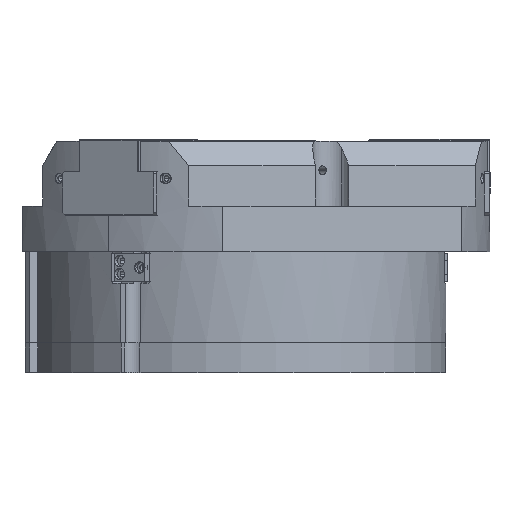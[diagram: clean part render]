
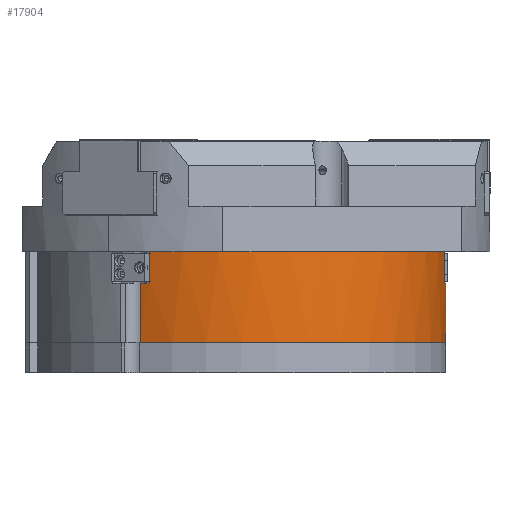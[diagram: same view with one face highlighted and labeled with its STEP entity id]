
A CAD part, front view. The second image highlights one B-rep face of the part: STEP entity #17904.
In plain terms, the highlighted cylindrical face has radius 120 mm (diameter 240 mm), a partial arc.
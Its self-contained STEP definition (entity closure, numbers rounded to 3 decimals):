
#536 = DIRECTION ( 'NONE',  ( 0., 0., -1. ) ) ;
#583 = VERTEX_POINT ( 'NONE', #673 ) ;
#673 = CARTESIAN_POINT ( 'NONE',  ( -109.608, 35., 48.848 ) ) ;
#700 = VERTEX_POINT ( 'NONE', #20630 ) ;
#718 = CARTESIAN_POINT ( 'NONE',  ( 0., 52., 0. ) ) ;
#751 = B_SPLINE_CURVE_WITH_KNOTS ( 'NONE', 3,
 ( #6284, #15840, #7883, #19046, #9494, #20634, #11121, #1554 ),
 .UNSPECIFIED., .F., .F.,
 ( 4, 2, 2, 4 ),
 ( 0., 0., 0.001, 0.002 ),
 .UNSPECIFIED. ) ;
#1075 = CARTESIAN_POINT ( 'NONE',  ( -109.608, 35., 48.848 ) ) ;
#1200 = AXIS2_PLACEMENT_3D ( 'NONE', #5048, #8213, #11448 ) ;
#1206 = CARTESIAN_POINT ( 'NONE',  ( -12.474, 34.738, -119.35 ) ) ;
#1288 = CARTESIAN_POINT ( 'NONE',  ( -11.5, 52., -119.448 ) ) ;
#1554 = CARTESIAN_POINT ( 'NONE',  ( -12.5, 51., -119.347 ) ) ;
#1683 = CARTESIAN_POINT ( 'NONE',  ( -107.02, 52., 54.283 ) ) ;
#1980 = AXIS2_PLACEMENT_3D ( 'NONE', #19635, #10108, #536 ) ;
#2167 = CARTESIAN_POINT ( 'NONE',  ( -109.195, 34., 49.765 ) ) ;
#2336 = DIRECTION ( 'NONE',  ( 0., 0., -1. ) ) ;
#2392 = EDGE_CURVE ( 'NONE', #17354, #6895, #16706, .T. ) ;
#2825 = CARTESIAN_POINT ( 'NONE',  ( -12.299, 34.384, -119.368 ) ) ;
#2939 = CARTESIAN_POINT ( 'NONE',  ( 0., 34., 0. ) ) ;
#3059 = DIRECTION ( 'NONE',  ( 0., -1., 0. ) ) ;
#3412 = EDGE_CURVE ( 'NONE', #700, #17354, #5222, .T. ) ;
#3473 = AXIS2_PLACEMENT_3D ( 'NONE', #6735, #17883, #8330 ) ;
#4211 = CARTESIAN_POINT ( 'NONE',  ( -109.195, 34., 49.765 ) ) ;
#4403 = CARTESIAN_POINT ( 'NONE',  ( -11.764, 34., -119.422 ) ) ;
#4508 = CARTESIAN_POINT ( 'NONE',  ( -12.5, 51., -119.347 ) ) ;
#4538 = DIRECTION ( 'NONE',  ( 0., 0., -1. ) ) ;
#4716 = VERTEX_POINT ( 'NONE', #15836 ) ;
#5048 = CARTESIAN_POINT ( 'NONE',  ( 0., 113.8, 0. ) ) ;
#5222 = B_SPLINE_CURVE_WITH_KNOTS ( 'NONE', 3,
 ( #20288, #9139, #5988, #17149, #7589, #18771, #9208, #20358 ),
 .UNSPECIFIED., .F., .F.,
 ( 4, 2, 2, 4 ),
 ( 0., 0., 0.001, 0.002 ),
 .UNSPECIFIED. ) ;
#5988 = CARTESIAN_POINT ( 'NONE',  ( -109.597, 51.262, 48.872 ) ) ;
#6037 = EDGE_CURVE ( 'NONE', #7041, #12492, #11331, .T. ) ;
#6284 = CARTESIAN_POINT ( 'NONE',  ( -11.5, 52., -119.448 ) ) ;
#6735 = CARTESIAN_POINT ( 'NONE',  ( 0., 0., 0. ) ) ;
#6761 = EDGE_CURVE ( 'NONE', #583, #700, #16996, .T. ) ;
#6895 = VERTEX_POINT ( 'NONE', #1288 ) ;
#6993 = LINE ( 'NONE', #1683, #7467 ) ;
#7040 = ORIENTED_EDGE ( 'NONE', *, *, #2392, .T. ) ;
#7041 = VERTEX_POINT ( 'NONE', #11213 ) ;
#7421 = CARTESIAN_POINT ( 'NONE',  ( -109.303, 34.026, 49.526 ) ) ;
#7467 = VECTOR ( 'NONE', #12854, 1000. ) ;
#7589 = CARTESIAN_POINT ( 'NONE',  ( -109.525, 51.616, 49.033 ) ) ;
#7856 = ORIENTED_EDGE ( 'NONE', *, *, #20226, .T. ) ;
#7883 = CARTESIAN_POINT ( 'NONE',  ( -11.761, 51.974, -119.422 ) ) ;
#7964 = CARTESIAN_POINT ( 'NONE',  ( -12.5, 113.8, -119.347 ) ) ;
#7973 = CARTESIAN_POINT ( 'NONE',  ( -107.02, 0., 54.283 ) ) ;
#8030 = CARTESIAN_POINT ( 'NONE',  ( -109.195, 52., 49.765 ) ) ;
#8098 = ORIENTED_EDGE ( 'NONE', *, *, #9756, .T. ) ;
#8213 = DIRECTION ( 'NONE',  ( 0., -1., 0. ) ) ;
#8330 = DIRECTION ( 'NONE',  ( 0., 0., -1. ) ) ;
#8358 = ORIENTED_EDGE ( 'NONE', *, *, #14745, .T. ) ;
#8395 = EDGE_CURVE ( 'NONE', #12298, #12494, #6993, .T. ) ;
#8513 = VECTOR ( 'NONE', #15181, 1000. ) ;
#9016 = VERTEX_POINT ( 'NONE', #4508 ) ;
#9027 = CARTESIAN_POINT ( 'NONE',  ( -109.449, 34.2, 49.203 ) ) ;
#9139 = CARTESIAN_POINT ( 'NONE',  ( -109.608, 51.132, 48.848 ) ) ;
#9142 = ORIENTED_EDGE ( 'NONE', *, *, #18896, .T. ) ;
#9208 = CARTESIAN_POINT ( 'NONE',  ( -109.305, 52., 49.524 ) ) ;
#9425 = ORIENTED_EDGE ( 'NONE', *, *, #17305, .T. ) ;
#9494 = CARTESIAN_POINT ( 'NONE',  ( -12.114, 51.8, -119.387 ) ) ;
#9586 = EDGE_CURVE ( 'NONE', #13608, #7041, #16463, .T. ) ;
#9666 = LINE ( 'NONE', #7964, #10195 ) ;
#9756 = EDGE_CURVE ( 'NONE', #9016, #13608, #9666, .T. ) ;
#10042 = LINE ( 'NONE', #14217, #14268 ) ;
#10108 = DIRECTION ( 'NONE',  ( 0., -1., 0. ) ) ;
#10195 = VECTOR ( 'NONE', #14389, 1000. ) ;
#10490 = AXIS2_PLACEMENT_3D ( 'NONE', #2939, #14104, #4538 ) ;
#10656 = CARTESIAN_POINT ( 'NONE',  ( -109.608, 34.735, 48.848 ) ) ;
#11121 = CARTESIAN_POINT ( 'NONE',  ( -12.5, 51.265, -119.347 ) ) ;
#11213 = CARTESIAN_POINT ( 'NONE',  ( -11.5, 34., -119.448 ) ) ;
#11331 = CIRCLE ( 'NONE', #10490, 120. ) ;
#11418 = CARTESIAN_POINT ( 'NONE',  ( -6.5, 34., -119.824 ) ) ;
#11448 = DIRECTION ( 'NONE',  ( 0., 0., -1. ) ) ;
#11503 = AXIS2_PLACEMENT_3D ( 'NONE', #718, #11896, #2336 ) ;
#11657 = ORIENTED_EDGE ( 'NONE', *, *, #3412, .T. ) ;
#11813 = ORIENTED_EDGE ( 'NONE', *, *, #9586, .T. ) ;
#11896 = DIRECTION ( 'NONE',  ( 0., -1., 0. ) ) ;
#12202 = CARTESIAN_POINT ( 'NONE',  ( -109.25, 34., 49.644 ) ) ;
#12298 = VERTEX_POINT ( 'NONE', #13074 ) ;
#12380 = CYLINDRICAL_SURFACE ( 'NONE', #1200, 120. ) ;
#12383 = CARTESIAN_POINT ( 'NONE',  ( -12.373, 34.495, -119.36 ) ) ;
#12492 = VERTEX_POINT ( 'NONE', #11418 ) ;
#12494 = VERTEX_POINT ( 'NONE', #7973 ) ;
#12545 = ORIENTED_EDGE ( 'NONE', *, *, #6761, .T. ) ;
#12854 = DIRECTION ( 'NONE',  ( 0., -1., 0. ) ) ;
#13074 = CARTESIAN_POINT ( 'NONE',  ( -107.02, 34., 54.283 ) ) ;
#13136 = VERTEX_POINT ( 'NONE', #2167 ) ;
#13608 = VERTEX_POINT ( 'NONE', #14331 ) ;
#13978 = CARTESIAN_POINT ( 'NONE',  ( -12.022, 34.108, -119.396 ) ) ;
#14104 = DIRECTION ( 'NONE',  ( 0., -1., 0. ) ) ;
#14217 = CARTESIAN_POINT ( 'NONE',  ( -6.5, 113.8, -119.824 ) ) ;
#14268 = VECTOR ( 'NONE', #3059, 1000. ) ;
#14331 = CARTESIAN_POINT ( 'NONE',  ( -12.5, 35., -119.347 ) ) ;
#14389 = DIRECTION ( 'NONE',  ( 0., -1., 0. ) ) ;
#14515 = CIRCLE ( 'NONE', #3473, 120. ) ;
#14745 = EDGE_CURVE ( 'NONE', #12492, #4716, #10042, .T. ) ;
#15181 = DIRECTION ( 'NONE',  ( 0., 1., 0. ) ) ;
#15512 = CARTESIAN_POINT ( 'NONE',  ( -12.5, 35., -119.347 ) ) ;
#15570 = CARTESIAN_POINT ( 'NONE',  ( -11.5, 34., -119.448 ) ) ;
#15836 = CARTESIAN_POINT ( 'NONE',  ( -6.5, 0., -119.824 ) ) ;
#15840 = CARTESIAN_POINT ( 'NONE',  ( -11.632, 52., -119.435 ) ) ;
#16426 = ORIENTED_EDGE ( 'NONE', *, *, #18126, .T. ) ;
#16463 = B_SPLINE_CURVE_WITH_KNOTS ( 'NONE', 3,
 ( #15512, #20302, #1206, #12383, #2825, #13978, #4403, #15570 ),
 .UNSPECIFIED., .F., .F.,
 ( 4, 2, 2, 4 ),
 ( 0., 0., 0.001, 0.002 ),
 .UNSPECIFIED. ) ;
#16669 = B_SPLINE_CURVE_WITH_KNOTS ( 'NONE', 3,
 ( #4211, #12202, #7421, #18588, #9027, #20184, #10656, #1075 ),
 .UNSPECIFIED., .F., .F.,
 ( 4, 2, 2, 4 ),
 ( 0., 0., 0.001, 0.002 ),
 .UNSPECIFIED. ) ;
#16706 = CIRCLE ( 'NONE', #11503, 120. ) ;
#16714 = CARTESIAN_POINT ( 'NONE',  ( -109.608, 113.8, 48.848 ) ) ;
#16996 = LINE ( 'NONE', #16714, #8513 ) ;
#17086 = FACE_OUTER_BOUND ( 'NONE', #17922, .T. ) ;
#17149 = CARTESIAN_POINT ( 'NONE',  ( -109.556, 51.505, 48.965 ) ) ;
#17305 = EDGE_CURVE ( 'NONE', #6895, #9016, #751, .T. ) ;
#17354 = VERTEX_POINT ( 'NONE', #8030 ) ;
#17883 = DIRECTION ( 'NONE',  ( 0., 1., 0. ) ) ;
#17904 = ADVANCED_FACE ( 'NONE', ( #17086 ), #12380, .T. ) ;
#17922 = EDGE_LOOP ( 'NONE', ( #11657, #7040, #9425, #8098, #11813, #19499, #8358, #7856, #18174, #9142, #16426, #12545 ) ) ;
#18126 = EDGE_CURVE ( 'NONE', #13136, #583, #16669, .T. ) ;
#18174 = ORIENTED_EDGE ( 'NONE', *, *, #8395, .F. ) ;
#18588 = CARTESIAN_POINT ( 'NONE',  ( -109.403, 34.126, 49.304 ) ) ;
#18771 = CARTESIAN_POINT ( 'NONE',  ( -109.411, 51.892, 49.287 ) ) ;
#18896 = EDGE_CURVE ( 'NONE', #12298, #13136, #19556, .T. ) ;
#19046 = CARTESIAN_POINT ( 'NONE',  ( -12.003, 51.874, -119.398 ) ) ;
#19499 = ORIENTED_EDGE ( 'NONE', *, *, #6037, .T. ) ;
#19556 = CIRCLE ( 'NONE', #1980, 120. ) ;
#19635 = CARTESIAN_POINT ( 'NONE',  ( 0., 34., 0. ) ) ;
#20184 = CARTESIAN_POINT ( 'NONE',  ( -109.563, 34.476, 48.949 ) ) ;
#20226 = EDGE_CURVE ( 'NONE', #4716, #12494, #14515, .T. ) ;
#20288 = CARTESIAN_POINT ( 'NONE',  ( -109.608, 51., 48.848 ) ) ;
#20302 = CARTESIAN_POINT ( 'NONE',  ( -12.5, 34.868, -119.347 ) ) ;
#20358 = CARTESIAN_POINT ( 'NONE',  ( -109.195, 52., 49.765 ) ) ;
#20630 = CARTESIAN_POINT ( 'NONE',  ( -109.608, 51., 48.848 ) ) ;
#20634 = CARTESIAN_POINT ( 'NONE',  ( -12.391, 51.524, -119.359 ) ) ;
